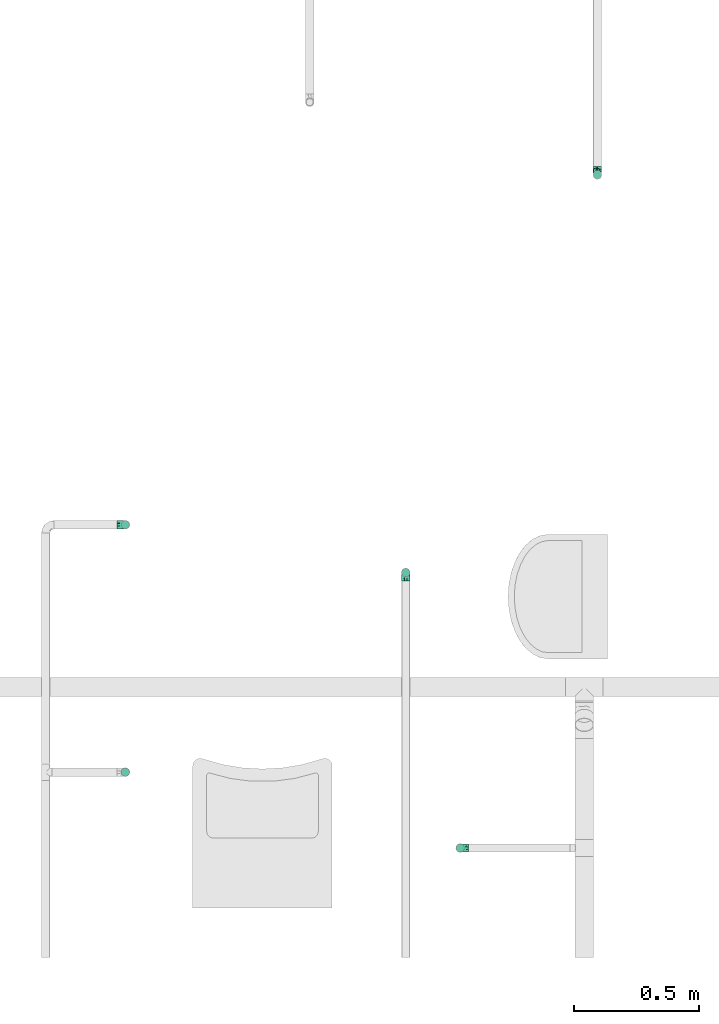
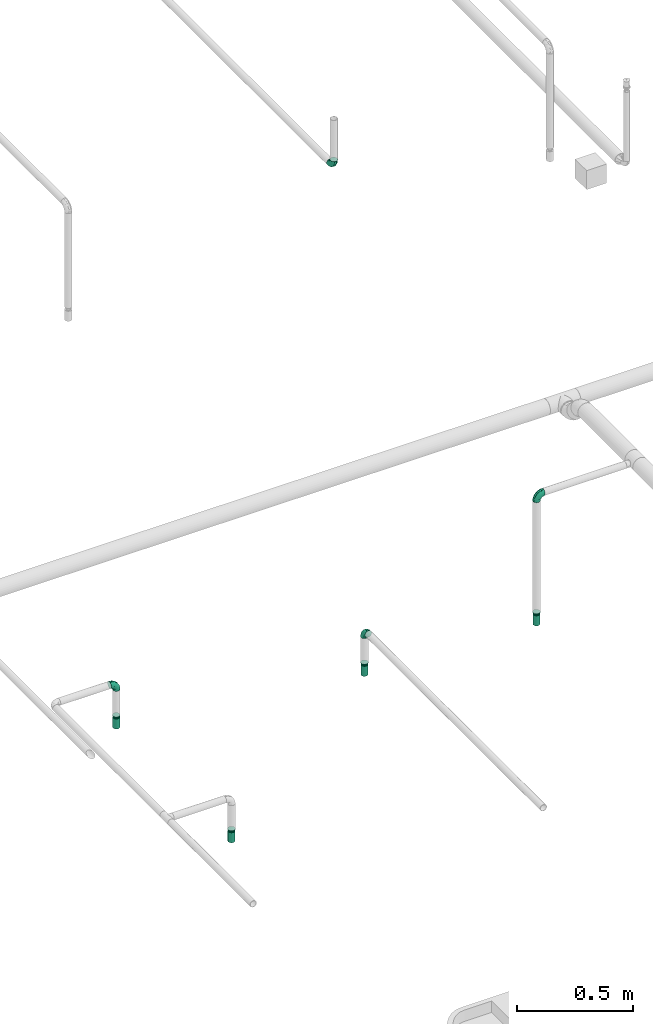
# One storey, part 49 of 95: 8 flow fittings, 4 flow terminals.
"""IFC2X3 building model written with IfcOpenShell, lengths in millimetres."""

from ifc_helpers import new_model, entity, si_unit, converted_unit, derived_unit, direction, frame, origin_with_axes, place, context, subcontext, project, spatial, open_shell, surface_model, source, transform, mapped, type_object, element, save


model = new_model("IFC2X3")

# Units and contexts
model_context = context("Model", 3, precision=0.01, world=frame((0.0, 4.29681676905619e-09, 0.0)), true_north=direction((4.01073788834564e-13, 1.0)))
plan_context = context("Plan", 3, precision=0.01, world=frame((0.0, 4.29681676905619e-09, 0.0)), true_north=direction((4.01073788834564e-13, 1.0)))
body_context = subcontext(model_context, "Body", "Model", "MODEL_VIEW")
ifc_project = project(units=[converted_unit("PLANEANGLEUNIT", "DEGREE", entity("IfcPositiveLengthMeasure", 0.0174532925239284), si_unit("PLANEANGLEUNIT", "RADIAN"), dimensions=[0, 0, 0, 0, 0, 0, 0]), si_unit("AREAUNIT", "SQUARE_METRE"), si_unit("LENGTHUNIT", "METRE", prefix="MILLI"), si_unit("MASSUNIT", "GRAM", prefix="KILO"), si_unit("POWERUNIT", "WATT"), si_unit("PRESSUREUNIT", "PASCAL"), si_unit("FORCEUNIT", "NEWTON", prefix="KILO"), si_unit("ELECTRICVOLTAGEUNIT", "VOLT"), si_unit("ELECTRICCURRENTUNIT", "AMPERE"), si_unit("THERMODYNAMICTEMPERATUREUNIT", "DEGREE_CELSIUS"), si_unit("TIMEUNIT", "SECOND"), si_unit("VOLUMEUNIT", "CUBIC_METRE"), derived_unit("LINEARVELOCITYUNIT", [(si_unit("LENGTHUNIT", "METRE"), 1), (si_unit("TIMEUNIT", "SECOND"), -1)]), derived_unit("VOLUMETRICFLOWRATEUNIT", [(si_unit("VOLUMEUNIT", "CUBIC_METRE"), 1), (si_unit("TIMEUNIT", "SECOND"), -1)]), derived_unit("THERMALTRANSMITTANCEUNIT", [(si_unit("POWERUNIT", "WATT"), 1), (si_unit("THERMODYNAMICTEMPERATUREUNIT", "KELVIN"), -1), (si_unit("AREAUNIT", "SQUARE_METRE"), -1)]), derived_unit("SOUNDPRESSUREUNIT", [(si_unit("PRESSUREUNIT", "PASCAL"), 1)])], contexts=[model_context, plan_context])

# Site, building, storey
site_placement = place(None, frame((0.0, -4.29681676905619e-09, 0.0), z_axis=(0.0, 0.0, 1.0), x_axis=(1.0, 0.0, 0.0)))
site = spatial("IfcSite", under=ifc_project, at=site_placement, CompositionType="ELEMENT")
building_placement = place(site_placement, frame((0.0, 4.29681676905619e-09, 0.0), z_axis=(0.0, 0.0, 1.0), x_axis=(1.0, 0.0, 0.0)))
building = spatial("IfcBuilding", under=site, at=building_placement, Name="mc-building", CompositionType="ELEMENT")
storey_placement = place(building_placement, frame((0.0, 0.0, 210900.0), z_axis=(0.0, 0.0, 1.0), x_axis=(1.0, 0.0, 0.0)))
storey = spatial("IfcBuildingStorey", under=building, at=storey_placement, Name="Nivå F", CompositionType="ELEMENT", Elevation=210900.0)

# Flow fittings
pipe_fitting_type_1 = type_object("IfcPipeFittingType", Name="magi_pipe_fe_reducer_centric_short_NOR", PredefinedType="TRANSITION")
shared_shape_1 = source(origin_with_axes(), body_context, "Body", "SurfaceModel", [
    surface_model("IfcShellBasedSurfaceModel", [(14.4, 5.35, -9.26647), (14.4, 0.0, -10.7), (14.4, 2.76936, -10.33541), (14.4, 10.33541, -2.76936), (14.4, 7.56604, -7.56604), (14.4, -10.33541, -2.76936), (14.4, 9.26647, -5.35), (14.4, 0.0, 10.7), (14.4, -5.35, -9.26647), (14.4, -2.76936, -10.33541), (14.4, -7.56604, -7.56604), (14.4, -9.26647, -5.35), (14.4, 10.7, 0.0), (14.4, 10.33541, 2.76936), (14.4, 9.26647, 5.35), (14.4, 7.56604, 7.56604), (14.4, 2.76936, 10.33541), (14.4, 5.35, 9.26647), (14.4, -10.33541, 2.76936), (14.4, -7.56604, 7.56604), (14.4, -9.26647, 5.35), (14.4, -10.7, 0.0), (14.4, -2.76936, 10.33541), (14.4, -5.35, 9.26647), (12.4, 2.76936, 10.33541), (12.4, -10.33541, -2.76936), (12.4, 0.0, 10.7), (12.4, 5.35, 9.26647), (12.4, 7.56604, 7.56604), (12.4, 9.26647, 5.35), (12.4, 10.33541, 2.76936), (12.4, -10.33541, 2.76936), (12.4, -2.76936, 10.33541), (12.4, -7.56604, 7.56604), (12.4, -5.35, 9.26647), (12.4, -9.26647, 5.35), (12.4, -10.7, 0.0), (12.4, 10.33541, -2.76936), (12.4, 5.35, -9.26647), (12.4, 9.26647, -5.35), (12.4, 7.56604, -7.56604), (12.4, 2.76936, -10.33541), (12.4, -9.26647, -5.35), (12.4, -5.35, -9.26647), (12.4, -7.56604, -7.56604), (12.4, 0.0, -10.7), (12.4, -2.76936, -10.33541), (12.4, 10.7, 0.0), (-2.0, 11.9501, 11.9501), (-2.0, 0.0, 16.9), (-2.0, 4.37404, 16.32415), (-2.0, 8.45, 14.63583), (-2.0, 14.63583, 8.45), (-2.0, 16.32415, 4.37404), (-2.0, -16.32415, 4.37404), (-2.0, -8.45, 14.63583), (-2.0, -14.63583, 8.45), (-2.0, -11.9501, 11.9501), (-2.0, -4.37404, 16.32415), (-2.0, -16.32415, -4.37404), (-2.0, -16.9, 0.0), (-2.0, -8.45, -14.63583), (-2.0, 16.32415, -4.37404), (-2.0, 11.9501, -11.9501), (-2.0, 14.63583, -8.45), (-2.0, 8.45, -14.63583), (-2.0, 4.37404, -16.32415), (-2.0, 0.0, -16.9), (-2.0, -11.9501, -11.9501), (-2.0, -14.63583, -8.45), (-2.0, -4.37404, -16.32415), (-2.0, 16.9, 0.0), (0.0, 4.37404, -16.32415), (0.0, 8.45, -14.63583), (0.0, 11.9501, -11.9501), (0.0, 0.0, -16.9), (0.0, 16.32415, -4.37404), (0.0, 16.32415, 4.37404), (0.0, 14.63583, -8.45), (0.0, -8.45, -14.63583), (0.0, -4.37404, -16.32415), (0.0, -11.9501, -11.9501), (0.0, -16.32415, -4.37404), (0.0, -14.63583, -8.45), (0.0, -16.32415, 4.37404), (0.0, 16.9, 0.0), (0.0, 14.63583, 8.45), (0.0, 11.9501, 11.9501), (0.0, 4.37404, 16.32415), (0.0, 8.45, 14.63583), (0.0, 0.0, 16.9), (0.0, -14.63583, 8.45), (0.0, -16.9, 0.0), (0.0, -8.45, 14.63583), (0.0, -11.9501, 11.9501), (0.0, -4.37404, 16.32415), (12.4, 9.3625, -2.31662), (0.0, 14.42505, -5.97505), (0.0, 15.66253, -2.98753), (12.4, -6.6875, -6.94985), (0.0, -13.18758, -8.96258), (0.0, 2.98753, -15.66253), (12.4, 0.0, -9.26647), (12.4, 6.6875, -6.94985), (0.0, 8.96258, -13.18758), (12.4, -9.3625, -2.31662), (0.0, -15.66253, -2.98753), (0.0, -14.42505, -5.97505), (0.0, 5.97505, -14.42505), (0.0, -2.98753, -15.66253), (0.0, -8.96258, -13.18758), (0.0, 13.18758, -8.96258), (12.4, 8.025, -4.63324), (12.4, -2.675, -9.26647), (12.4, 2.675, -9.26647), (0.0, -5.97505, -14.42505), (12.4, -8.025, -4.63324), (12.4, -9.3625, 2.31662), (0.0, -14.42505, 5.97505), (0.0, -15.66253, 2.98753), (12.4, 6.6875, 6.94985), (0.0, 13.18758, 8.96258), (0.0, -2.98753, 15.66253), (12.4, 0.0, 9.26647), (12.4, -6.6875, 6.94985), (0.0, -8.96258, 13.18758), (12.4, 9.3625, 2.31662), (0.0, 15.66253, 2.98753), (0.0, 14.42505, 5.97505), (0.0, -5.97505, 14.42505), (0.0, 2.98753, 15.66253), (0.0, 8.96258, 13.18758), (0.0, -13.18758, 8.96258), (12.4, -8.025, 4.63324), (12.4, 2.675, 9.26647), (12.4, -2.675, 9.26647), (0.0, 5.97505, 14.42505), (12.4, 8.025, 4.63324)], [open_shell([[[0, 1, 2]], [[3, 0, 4]], [[5, 0, 3]], [[3, 4, 6]], [[7, 5, 3]], [[1, 8, 9]], [[1, 0, 8]], [[10, 5, 11]], [[5, 10, 8]], [[0, 5, 8]], [[3, 12, 13]], [[13, 14, 15]], [[13, 15, 16]], [[7, 3, 16]], [[16, 15, 17]], [[7, 18, 5]], [[18, 19, 20]], [[21, 5, 18]], [[19, 22, 23]], [[22, 19, 18]], [[7, 22, 18]], [[13, 16, 3]], [[24, 25, 26]], [[27, 25, 24]], [[28, 29, 30]], [[28, 25, 27]], [[31, 26, 25]], [[32, 33, 34]], [[33, 32, 31]], [[33, 31, 35]], [[32, 26, 31]], [[31, 25, 36]], [[30, 37, 28]], [[25, 28, 37]], [[38, 37, 39]], [[37, 38, 25]], [[38, 39, 40]], [[41, 25, 38]], [[42, 43, 44]], [[43, 42, 25]], [[43, 45, 46]], [[43, 25, 41]], [[41, 45, 43]], [[37, 30, 47]], [[25, 5, 36]], [[42, 11, 25]], [[8, 44, 43]], [[42, 44, 10]], [[9, 43, 46]], [[25, 11, 5]], [[5, 21, 36]], [[9, 8, 43]], [[10, 44, 8]], [[10, 11, 42]], [[1, 9, 46]], [[46, 45, 1]], [[41, 2, 45]], [[38, 0, 41]], [[6, 40, 39]], [[38, 40, 4]], [[3, 39, 37]], [[38, 4, 0]], [[0, 2, 41]], [[12, 3, 37]], [[6, 39, 3]], [[6, 4, 40]], [[47, 12, 37]], [[45, 2, 1]], [[30, 13, 47]], [[29, 14, 30]], [[17, 28, 27]], [[29, 28, 15]], [[16, 27, 24]], [[30, 14, 13]], [[13, 12, 47]], [[16, 17, 27]], [[15, 28, 17]], [[15, 14, 29]], [[7, 16, 24]], [[24, 26, 7]], [[32, 22, 26]], [[34, 23, 32]], [[20, 33, 35]], [[34, 33, 19]], [[18, 35, 31]], [[34, 19, 23]], [[23, 22, 32]], [[21, 18, 31]], [[20, 35, 18]], [[20, 19, 33]], [[36, 21, 31]], [[26, 22, 7]], [[48, 49, 50]], [[48, 50, 51]], [[48, 52, 53]], [[48, 53, 49]], [[49, 53, 54]], [[55, 56, 57]], [[55, 58, 49]], [[56, 55, 49]], [[49, 54, 56]], [[54, 59, 60]], [[54, 53, 61]], [[53, 62, 63]], [[63, 62, 64]], [[63, 65, 66]], [[61, 53, 63]], [[67, 63, 66]], [[59, 68, 69]], [[68, 59, 61]], [[61, 67, 70]], [[59, 54, 61]], [[63, 67, 61]], [[53, 71, 62]], [[72, 73, 74]], [[75, 72, 74]], [[74, 76, 77]], [[76, 74, 78]], [[74, 77, 79]], [[75, 79, 80]], [[75, 74, 79]], [[81, 82, 83]], [[82, 81, 79]], [[79, 84, 82]], [[77, 76, 85]], [[77, 86, 87]], [[77, 87, 88]], [[88, 84, 79]], [[88, 87, 89]], [[84, 88, 90]], [[90, 91, 84]], [[92, 82, 84]], [[91, 93, 94]], [[91, 90, 93]], [[93, 90, 95]], [[79, 77, 88]], [[59, 82, 60]], [[69, 83, 59]], [[79, 68, 61]], [[69, 68, 81]], [[80, 61, 70]], [[59, 83, 82]], [[82, 92, 60]], [[80, 79, 61]], [[81, 68, 79]], [[81, 83, 69]], [[75, 80, 70]], [[70, 67, 75]], [[66, 72, 67]], [[65, 73, 66]], [[78, 63, 64]], [[65, 63, 74]], [[76, 64, 62]], [[65, 74, 73]], [[73, 72, 66]], [[85, 76, 62]], [[78, 64, 76]], [[78, 74, 63]], [[71, 85, 62]], [[67, 72, 75]], [[53, 77, 71]], [[52, 86, 53]], [[89, 48, 51]], [[52, 48, 87]], [[88, 51, 50]], [[53, 86, 77]], [[77, 85, 71]], [[88, 89, 51]], [[87, 48, 89]], [[87, 86, 52]], [[90, 88, 50]], [[50, 49, 90]], [[58, 95, 49]], [[55, 93, 58]], [[91, 57, 56]], [[55, 57, 94]], [[84, 56, 54]], [[55, 94, 93]], [[93, 95, 58]], [[92, 84, 54]], [[91, 56, 84]], [[91, 94, 57]], [[60, 92, 54]], [[49, 95, 90]], [[27, 34, 47]], [[47, 34, 43]], [[43, 38, 47]], [[43, 34, 36]], [[90, 87, 94]], [[92, 94, 87]], [[87, 74, 92]], [[75, 92, 74]], [[81, 92, 75]], [[74, 87, 85]], [[96, 97, 98]], [[81, 99, 100]], [[101, 102, 75]], [[98, 85, 47]], [[74, 103, 104]], [[104, 103, 38]], [[105, 106, 107]], [[38, 108, 104]], [[102, 109, 75]], [[110, 99, 81]], [[47, 96, 98]], [[103, 111, 112]], [[109, 102, 113]], [[36, 92, 106]], [[102, 101, 114]], [[110, 115, 43]], [[96, 112, 97]], [[107, 116, 105]], [[36, 106, 105]], [[113, 115, 109]], [[43, 115, 113]], [[116, 107, 100]], [[108, 38, 114]], [[111, 103, 74]], [[111, 97, 112]], [[99, 110, 43]], [[116, 100, 99]], [[101, 108, 114]], [[117, 118, 119]], [[87, 120, 121]], [[122, 123, 90]], [[119, 92, 36]], [[94, 124, 125]], [[125, 124, 34]], [[126, 127, 128]], [[34, 129, 125]], [[123, 130, 90]], [[131, 120, 87]], [[36, 117, 119]], [[124, 132, 133]], [[130, 123, 134]], [[47, 85, 127]], [[123, 122, 135]], [[131, 136, 27]], [[117, 133, 118]], [[128, 137, 126]], [[47, 127, 126]], [[134, 136, 130]], [[27, 136, 134]], [[137, 128, 121]], [[129, 34, 135]], [[132, 124, 94]], [[132, 118, 133]], [[120, 131, 27]], [[137, 121, 120]], [[122, 129, 135]]])]),
])
for number, where, z_axis, x_axis, name in (
    (1, (534102.76021, 441213.6625, 3769.25200000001), (0.0, -1.0, 0.0), (0.0, 0.0, -1.0), "magi_pipe_fe_reducer_centric_short_NOR"),
    (2, (532758.65743, 441518.15849, 2912.39999999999), (0.0, -1.0, 0.0), (0.0, 0.0, -1.0), "magi_pipe_fe_reducer_centric_short_NOR"),
    (3, (532758.43666, 442511.46652, 2909.35200000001), (0.0, -1.0, 0.0), (0.0, 0.0, -1.0), "magi_pipe_fe_reducer_centric_short_NOR"),
    (4, (533884.1403, 442319.41048, 2909.35200000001), (0.0, -1.0, 0.0), (0.0, 0.0, -1.0), "magi_pipe_fe_reducer_centric_short_NOR"),
):
    element("IfcFlowFitting", number, at=place(storey_placement, frame(where, z_axis=z_axis, x_axis=x_axis)), inside=storey, type_object=pipe_fitting_type_1, Name=name, context=body_context, shape_type="MappedRepresentation", body=[
        mapped(shared_shape_1, transform((0.0, 0.0, 0.0), scale=1.0)),
    ])
pipe_fitting_type_2 = type_object("IfcPipeFittingType", Name="magi_pipe_fe_elbow_short_001", PredefinedType="BEND")
shared_shape_2 = source(origin_with_axes(), body_context, "Body", "SurfaceModel", [
    surface_model("IfcShellBasedSurfaceModel", [(-33.8, 8.45, -14.63583), (-33.8, 4.37404, -16.32415), (-33.8, 11.9501, -11.9501), (-33.8, -11.9501, -11.9501), (-33.8, -14.63583, -8.45), (-33.8, -8.45, -14.63583), (-33.8, 0.0, -16.9), (-33.8, -4.37404, -16.32415), (-33.8, -4.37404, 16.32415), (-33.8, 0.0, 16.9), (-33.8, -8.45, 14.63583), (-33.8, 16.32415, -4.37404), (-33.8, 14.63583, -8.45), (-33.8, -16.32415, -4.37404), (-33.8, -16.9, 0.0), (-33.8, -16.32415, 4.37404), (-33.8, 11.9501, 11.9501), (-33.8, 14.63583, 8.45), (-33.8, 16.32415, 4.37404), (-33.8, 4.37404, 16.32415), (-33.8, 8.45, 14.63583), (-33.8, -14.63583, 8.45), (-33.8, -11.9501, 11.9501), (-33.8, 16.9, 0.0), (-11.9501, 33.8, -11.9501), (0.0, 33.8, -16.9), (-4.37404, 33.8, -16.32415), (-8.45, 33.8, -14.63583), (-14.63583, 33.8, -8.45), (-16.32415, 33.8, -4.37404), (14.63583, 33.8, -8.45), (8.45, 33.8, 14.63583), (16.32415, 33.8, -4.37404), (8.45, 33.8, -14.63583), (11.9501, 33.8, -11.9501), (4.37404, 33.8, -16.32415), (16.32415, 33.8, 4.37404), (16.9, 33.8, 0.0), (-11.9501, 33.8, 11.9501), (-16.32415, 33.8, 4.37404), (-14.63583, 33.8, 8.45), (-8.45, 33.8, 14.63583), (-4.37404, 33.8, 16.32415), (11.9501, 33.8, 11.9501), (14.63583, 33.8, 8.45), (0.0, 33.8, 16.9), (4.37404, 33.8, 16.32415), (-16.9, 33.8, 0.0), (-24.79389, -13.12945, 9.48721), (-22.19287, -9.75018, 12.59315), (-24.09897, -14.97035, 0.0), (-14.93934, -10.76256, 8.5297), (-22.46095, -14.75051, 5.27077), (14.75051, 22.46094, 5.27077), (11.9251, 13.23888, 4.33236), (13.04069, 14.39795, 0.0), (7.71387, 13.68847, 11.55891), (9.75018, 22.19287, 12.59315), (4.10169, 13.0571, 14.04018), (-24.84007, -6.39063, 15.2048), (-25.81779, -2.23879, 16.61097), (-23.66549, 2.59054, 16.87119), (-26.50418, 14.06512, 11.08152), (-24.21253, 17.66365, 7.72657), (-29.58514, 15.86957, 7.00283), (-6.17382, -7.5455, 0.0), (-13.23888, -11.9251, 4.33236), (-14.39795, -13.04069, 0.0), (-17.81434, 18.87373, 11.97104), (-6.30846, 29.15138, 15.82987), (-2.31622, 25.28002, 16.85849), (-29.23923, 10.23435, 13.77053), (-1.45439, -2.85688, 7.61475), (-0.28326, 0.34872, 10.09509), (-5.74484, -4.04709, 10.4122), (-4.41137, 11.31918, 16.59407), (-8.39727, 3.10034, 15.7812), (-1.72649, 9.1306, 15.53089), (-17.39909, 24.75344, 7.64977), (-26.19233, 20.0512, 0.0), (-28.14518, 17.29657, 4.25857), (-26.05147, 6.6281, 15.96447), (-5.87354, 16.61944, 16.86968), (-12.51807, 12.51807, 16.48937), (-10.06312, 7.38516, 16.81295), (-3.01882, 3.01882, 13.81718), (-13.0571, -4.10169, 14.04018), (-16.82553, -0.15166, 16.38038), (10.76256, 14.93934, 8.5297), (13.12945, 24.79389, 9.48721), (6.39063, 24.84007, 15.2048), (2.23879, 25.81779, 16.61097), (-13.68847, -7.71387, 11.55891), (14.97035, 24.09897, 0.0), (-7.30894, 22.89991, 16.09489), (-10.67958, 26.17414, 14.008), (-12.78295, 18.26924, 15.06066), (-13.88562, 22.45231, 12.93244), (-18.04944, 15.16501, 14.04434), (-23.11658, 20.08178, 4.02986), (-21.84989, 21.84989, 0.0), (-18.55817, 25.48277, 3.93065), (-13.95142, 26.94732, 11.03289), (-18.57098, 7.23906, 16.59756), (-16.58335, 4.14122, 16.89279), (-17.96666, 11.46709, 15.63151), (-9.84453, 17.54304, 16.18938), (0.15166, 16.82553, 16.38038), (-23.27207, 11.47201, 14.23154), (3.84842, 5.86994, 10.70473), (-8.0212, -7.54413, 7.93275), (1.00345, -2.19508, 4.57414), (5.13203, 3.01004, 5.90201), (5.24161, 1.7543, 2.53265), (8.70457, 7.04947, 3.99182), (-20.0512, 26.19233, 0.0), (8.4852, 8.76699, 7.09296), (-4.55488, -6.72064, 4.90681), (2.05031, -2.05031, 0.0), (7.5455, 6.17382, 0.0), (-26.75399, 2.1369, -16.845), (-14.61995, 24.73803, -11.27736), (-28.45274, -13.45335, -9.81895), (-26.00469, 6.63555, -15.96645), (-23.06726, 20.04573, -4.26202), (-13.80647, -4.26506, -14.17873), (-14.67501, -0.21081, -16.07388), (-6.7902, -0.2828, -13.8478), (-24.53586, 11.08096, -14.13417), (-26.72048, 14.00837, -11.05776), (10.0967, 24.44989, -12.75976), (5.83237, 21.40218, -15.03047), (6.66249, 28.54238, -15.38093), (-20.38182, 15.48705, -12.74596), (12.53268, 21.23441, -9.15363), (12.54494, 15.67504, -5.54878), (9.7522, 12.89279, -8.66343), (-15.65186, 19.64213, -13.01327), (-12.03528, 20.66498, -14.67665), (-15.61907, 15.61906, -14.83879), (-25.56551, -15.26206, 0.0), (-24.65452, -15.12934, -5.50955), (13.45335, 28.45274, -9.81895), (15.12934, 24.65452, -5.50955), (-7.35442, -8.31014, -5.65563), (-15.67504, -12.54494, -5.54878), (-24.44989, -10.0967, -12.75976), (0.16522, 0.41303, -9.71728), (-5.70658, -5.33066, -8.89288), (-5.13869, -2.37198, -11.53565), (-21.23441, -12.53268, -9.15363), (0.71146, 7.93863, -14.09382), (0.21081, 14.67501, -16.07388), (3.49291, 14.42772, -14.76381), (-24.89911, -2.13088, -16.591), (-28.54238, -6.66249, -15.38093), (-18.44386, -7.71663, -13.26957), (2.13088, 24.89911, -16.591), (-28.64342, 17.44413, -2.89318), (1.70017, -1.28722, -5.09504), (-16.57067, 26.81947, -7.36596), (-17.69055, 27.4263, -3.76405), (-12.89279, -9.7522, -8.66343), (-5.96611, 5.96611, -15.95814), (-20.53709, 20.09345, -8.28985), (-2.1369, 26.75399, -16.845), (-6.89872, 24.58781, -16.02578), (-10.60739, 26.53157, -13.98044), (-21.40218, -5.83237, -15.03047), (2.93192, 5.89627, -11.55917), (6.89393, 12.61842, -11.82233), (5.58056, 5.95325, -8.79455), (-3.99512, 18.61798, -16.89635), (8.31014, 7.35442, -5.65563), (-9.1383, 9.86148, -16.89041), (-9.99983, 16.02119, -16.39699), (-16.68576, 9.78031, -16.34199), (-27.01915, 16.61158, -7.12979), (15.26206, 25.56551, 0.0), (-18.61798, 3.99512, -16.89635), (-19.37495, 27.82495, 0.0), (-12.61842, -6.89393, -11.82233), (-18.84705, 19.14018, -10.96545)], [open_shell([[[0, 1, 2]], [[3, 4, 5]], [[6, 7, 5]], [[8, 9, 10]], [[1, 6, 2]], [[11, 12, 2]], [[4, 2, 6]], [[2, 13, 10]], [[5, 4, 6]], [[2, 4, 13]], [[14, 15, 13]], [[11, 2, 16]], [[11, 17, 18]], [[11, 16, 17]], [[19, 20, 16]], [[16, 2, 10]], [[19, 16, 10]], [[21, 22, 15]], [[22, 13, 15]], [[22, 10, 13]], [[10, 9, 19]], [[11, 18, 23]], [[24, 25, 26]], [[24, 26, 27]], [[24, 28, 29]], [[25, 24, 30]], [[31, 32, 24]], [[33, 30, 34]], [[33, 35, 25]], [[25, 30, 33]], [[32, 30, 24]], [[32, 36, 37]], [[38, 24, 29]], [[39, 40, 29]], [[40, 38, 29]], [[38, 41, 42]], [[38, 31, 24]], [[31, 38, 42]], [[36, 43, 44]], [[36, 32, 43]], [[31, 45, 46]], [[32, 31, 43]], [[42, 45, 31]], [[39, 29, 47]], [[22, 48, 49]], [[15, 14, 50]], [[51, 48, 52]], [[53, 54, 55]], [[48, 22, 21]], [[15, 52, 21]], [[56, 57, 58]], [[49, 10, 22]], [[49, 59, 10]], [[9, 60, 61]], [[62, 63, 64]], [[65, 66, 67]], [[57, 43, 31]], [[62, 68, 63]], [[42, 69, 70]], [[20, 71, 16]], [[8, 60, 9]], [[72, 73, 74]], [[75, 76, 77]], [[16, 62, 17]], [[40, 39, 78]], [[79, 23, 80]], [[64, 18, 17]], [[9, 61, 19]], [[19, 81, 20]], [[82, 83, 84]], [[74, 85, 86]], [[59, 86, 87]], [[88, 89, 57]], [[90, 31, 46]], [[44, 53, 36]], [[46, 45, 91]], [[54, 53, 88]], [[44, 89, 53]], [[92, 86, 49]], [[89, 44, 43]], [[10, 59, 8]], [[53, 55, 93]], [[93, 36, 53]], [[66, 52, 67]], [[94, 82, 70]], [[95, 96, 94]], [[97, 98, 96]], [[79, 99, 100]], [[41, 38, 95]], [[101, 100, 99]], [[68, 78, 63]], [[42, 41, 69]], [[23, 18, 80]], [[95, 94, 69]], [[78, 101, 99]], [[38, 102, 95]], [[70, 45, 42]], [[97, 95, 102]], [[15, 50, 52]], [[90, 57, 31]], [[57, 90, 58]], [[81, 19, 61]], [[103, 104, 84]], [[105, 81, 103]], [[38, 40, 102]], [[106, 96, 83]], [[94, 106, 82]], [[91, 70, 107]], [[71, 62, 16]], [[62, 108, 98]], [[86, 59, 49]], [[67, 52, 50]], [[60, 59, 87]], [[92, 49, 51]], [[86, 85, 76]], [[91, 90, 46]], [[37, 36, 93]], [[107, 77, 58]], [[107, 58, 90]], [[58, 85, 109]], [[110, 74, 92]], [[72, 74, 110]], [[66, 51, 52]], [[72, 111, 112]], [[113, 114, 112]], [[56, 88, 57]], [[52, 48, 21]], [[49, 48, 51]], [[57, 89, 43]], [[53, 89, 88]], [[103, 81, 61]], [[71, 81, 108]], [[18, 64, 80]], [[63, 78, 99]], [[47, 115, 101]], [[101, 115, 100]], [[40, 78, 102]], [[68, 102, 78]], [[97, 96, 95]], [[105, 98, 108]], [[103, 84, 83]], [[107, 70, 82]], [[76, 84, 87]], [[82, 84, 75]], [[70, 91, 45]], [[90, 91, 107]], [[59, 60, 8]], [[61, 60, 87]], [[73, 85, 74]], [[109, 112, 116]], [[103, 61, 104]], [[105, 103, 83]], [[96, 105, 83]], [[81, 105, 108]], [[96, 98, 105]], [[62, 98, 68]], [[61, 87, 104]], [[87, 84, 104]], [[86, 76, 87]], [[77, 76, 85]], [[58, 77, 85]], [[75, 77, 107]], [[82, 75, 107]], [[76, 75, 84]], [[81, 71, 20]], [[62, 71, 108]], [[95, 69, 41]], [[70, 69, 94]], [[62, 64, 17]], [[80, 63, 99]], [[63, 80, 64]], [[80, 99, 79]], [[66, 65, 117]], [[110, 66, 117]], [[112, 114, 116]], [[118, 117, 65]], [[110, 92, 51]], [[112, 111, 113]], [[119, 55, 54]], [[74, 86, 92]], [[58, 109, 56]], [[116, 56, 109]], [[66, 110, 51]], [[72, 110, 117]], [[111, 72, 117]], [[73, 112, 109]], [[117, 118, 111]], [[113, 111, 118]], [[118, 119, 113]], [[114, 119, 54]], [[119, 114, 113]], [[116, 54, 88]], [[54, 116, 114]], [[116, 88, 56]], [[112, 73, 72]], [[85, 73, 109]], [[78, 39, 101]], [[47, 101, 39]], [[102, 68, 97]], [[97, 68, 98]], [[82, 106, 83]], [[94, 96, 106]], [[1, 120, 6]], [[28, 24, 121]], [[3, 122, 4]], [[0, 123, 1]], [[100, 124, 79]], [[125, 126, 127]], [[128, 2, 129]], [[130, 131, 132]], [[128, 129, 133]], [[134, 135, 136]], [[137, 138, 139]], [[128, 0, 2]], [[67, 140, 141]], [[134, 142, 143]], [[141, 13, 4]], [[144, 65, 145]], [[146, 3, 5]], [[147, 148, 149]], [[145, 141, 150]], [[151, 152, 153]], [[154, 7, 6]], [[5, 155, 146]], [[150, 146, 156]], [[155, 5, 7]], [[143, 135, 134]], [[35, 157, 25]], [[23, 79, 158]], [[148, 159, 144]], [[160, 161, 29]], [[145, 162, 144]], [[163, 152, 151]], [[29, 28, 160]], [[121, 164, 160]], [[33, 34, 130]], [[25, 165, 26]], [[26, 165, 166]], [[142, 34, 30]], [[24, 27, 167]], [[124, 161, 164]], [[157, 35, 132]], [[155, 154, 168]], [[123, 0, 128]], [[169, 170, 171]], [[172, 157, 152]], [[26, 166, 27]], [[132, 35, 33]], [[142, 130, 34]], [[168, 154, 126]], [[136, 135, 173]], [[133, 137, 139]], [[2, 12, 129]], [[170, 131, 130]], [[30, 32, 143]], [[172, 174, 175]], [[176, 123, 128]], [[158, 177, 11]], [[135, 55, 119]], [[167, 27, 166]], [[175, 166, 172]], [[137, 167, 138]], [[122, 141, 4]], [[140, 14, 13]], [[32, 37, 178]], [[170, 130, 134]], [[152, 157, 131]], [[165, 157, 172]], [[153, 170, 151]], [[152, 163, 174]], [[168, 125, 156]], [[122, 146, 150]], [[120, 154, 6]], [[179, 174, 126]], [[179, 126, 154]], [[126, 163, 127]], [[162, 145, 150]], [[140, 13, 141]], [[32, 178, 143]], [[55, 143, 178]], [[177, 129, 12]], [[128, 133, 139]], [[176, 128, 139]], [[120, 123, 179]], [[121, 160, 28]], [[161, 100, 180]], [[166, 175, 138]], [[121, 24, 167]], [[161, 47, 29]], [[79, 124, 158]], [[124, 164, 177]], [[161, 124, 100]], [[136, 171, 170]], [[127, 163, 151]], [[147, 171, 159]], [[148, 144, 162]], [[127, 151, 169]], [[127, 181, 125]], [[129, 177, 164]], [[12, 11, 177]], [[159, 65, 144]], [[67, 141, 145]], [[143, 55, 135]], [[135, 119, 173]], [[123, 120, 1]], [[154, 120, 179]], [[157, 165, 25]], [[166, 165, 172]], [[172, 152, 174]], [[176, 139, 175]], [[126, 174, 163]], [[176, 174, 179]], [[174, 176, 175]], [[123, 176, 179]], [[150, 181, 162]], [[127, 149, 181]], [[181, 148, 162]], [[159, 148, 147]], [[171, 136, 173]], [[170, 134, 136]], [[159, 171, 173]], [[171, 147, 169]], [[169, 147, 149]], [[151, 170, 169]], [[164, 182, 129]], [[182, 121, 137]], [[181, 149, 148]], [[169, 149, 127]], [[182, 137, 133]], [[167, 137, 121]], [[166, 138, 167]], [[175, 139, 138]], [[129, 182, 133]], [[121, 182, 164]], [[161, 160, 164]], [[47, 161, 180]], [[177, 158, 124]], [[23, 158, 11]], [[130, 132, 33]], [[157, 132, 131]], [[143, 142, 30]], [[130, 142, 134]], [[154, 155, 7]], [[146, 155, 168]], [[146, 122, 3]], [[141, 122, 150]], [[152, 131, 153]], [[159, 119, 118]], [[67, 145, 65]], [[170, 153, 131]], [[119, 159, 173]], [[159, 118, 65]], [[156, 125, 181]], [[126, 125, 168]], [[150, 156, 181]], [[168, 156, 146]]])]),
])
for number, where, z_axis, x_axis, name in (
    (5, (534102.76021, 441213.6625, 4390.0), (0.0, 1.0, 0.0), (0.0, 0.0, 1.0), "magi_pipe_fe_elbow_short_001"),
    (6, (532758.43666, 442511.46652, 3080.14999999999), (0.0, 1.0, 0.0), (1.0, 0.0, 0.0), "magi_pipe_fe_elbow_short_001"),
    (7, (533884.1403, 442319.41048, 3080.14999999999), (-1.0, 0.0, 0.0), (0.0, 1.0, 0.0), "magi_pipe_fe_elbow_short_001"),
    (8, (534653.43639, 443915.88295, 4287.98254), (1.0, 0.0, 0.0), (0.0, 0.0, -1.0), "magi_pipe_fe_elbow_short_001"),
):
    element("IfcFlowFitting", number, at=place(storey_placement, frame(where, z_axis=z_axis, x_axis=x_axis)), inside=storey, type_object=pipe_fitting_type_2, Name=name, context=body_context, shape_type="MappedRepresentation", body=[
        mapped(shared_shape_2, transform((0.0, 0.0, 0.0), scale=1.0)),
    ])

# Flow terminals
fire_suppression_terminal_type = type_object("IfcFireSuppressionTerminalType", Name="SP-15-K80-68DGR-STD-HIMLING", PredefinedType="NOTDEFINED")
shared_shape_3 = source(origin_with_axes(), body_context, "Body", "SurfaceModel", [
    surface_model("IfcShellBasedSurfaceModel", [(15.45481, -4.1411, 53.0), (13.85641, -8.0, 53.0), (15.45481, -4.1411, 0.0), (16.0, 0.0, 0.0), (16.0, 0.0, 53.0), (15.45481, 4.1411, 0.0), (13.85641, 8.0, 53.0), (15.45481, 4.1411, 53.0), (11.31371, 11.31371, 53.0), (8.0, 13.85641, 53.0), (4.1411, 15.45481, 53.0), (-8.0, 13.85641, 53.0), (-4.1411, 15.45481, 53.0), (0.0, 16.0, 53.0), (-11.31371, 11.31371, 53.0), (-13.85641, 8.0, 53.0), (-15.45481, 4.1411, 53.0), (11.31371, -11.31371, 53.0), (-16.0, 0.0, 53.0), (0.0, -16.0, 53.0), (4.1411, -15.45481, 53.0), (8.0, -13.85641, 53.0), (-13.85641, -8.0, 53.0), (-11.31371, -11.31371, 53.0), (-15.45481, -4.1411, 53.0), (-8.0, -13.85641, 53.0), (-4.1411, -15.45481, 53.0), (8.0, -13.85641, 0.0), (4.1411, -15.45481, 0.0), (0.0, -16.0, 0.0), (-4.1411, -15.45481, 0.0), (13.85641, -8.0, 0.0), (11.31371, -11.31371, 0.0), (-16.0, 0.0, 0.0), (-8.0, -13.85641, 0.0), (-11.31371, -11.31371, 0.0), (-13.85641, -8.0, 0.0), (-15.45481, -4.1411, 0.0), (4.1411, 15.45481, 0.0), (13.85641, 8.0, 0.0), (8.0, 13.85641, 0.0), (11.31371, 11.31371, 0.0), (-15.45481, 4.1411, 0.0), (-11.31371, 11.31371, 0.0), (-8.0, 13.85641, 0.0), (-13.85641, 8.0, 0.0), (-4.1411, 15.45481, 0.0), (0.0, 16.0, 0.0)], [open_shell([[[0, 1, 2]], [[3, 4, 0]], [[5, 6, 7]], [[7, 4, 3]], [[8, 9, 10]], [[8, 10, 11]], [[8, 4, 7]], [[6, 8, 7]], [[4, 8, 11]], [[12, 11, 13]], [[11, 10, 13]], [[14, 15, 11]], [[16, 11, 15]], [[11, 16, 4]], [[16, 0, 4]], [[17, 1, 0]], [[18, 17, 16]], [[19, 20, 21]], [[18, 21, 17]], [[21, 18, 19]], [[22, 23, 24]], [[18, 24, 23]], [[25, 26, 23]], [[18, 23, 26]], [[26, 19, 18]], [[0, 16, 17]], [[27, 28, 29]], [[27, 29, 30]], [[2, 31, 32]], [[32, 27, 33]], [[2, 32, 33]], [[34, 35, 30]], [[36, 30, 35]], [[36, 37, 30]], [[37, 27, 30]], [[37, 33, 27]], [[33, 5, 2]], [[38, 5, 33]], [[39, 5, 38]], [[38, 40, 41]], [[39, 38, 41]], [[33, 42, 38]], [[43, 44, 45]], [[42, 45, 44]], [[46, 47, 44]], [[38, 42, 44]], [[44, 47, 38]], [[5, 3, 2]], [[45, 42, 16]], [[45, 15, 43]], [[46, 44, 11]], [[14, 44, 43]], [[47, 46, 12]], [[33, 18, 42]], [[18, 16, 42]], [[16, 15, 45]], [[15, 14, 43]], [[44, 14, 11]], [[11, 12, 46]], [[12, 13, 47]], [[40, 38, 10]], [[40, 9, 41]], [[5, 39, 6]], [[8, 39, 41]], [[3, 5, 7]], [[13, 10, 38]], [[10, 9, 40]], [[9, 8, 41]], [[8, 6, 39]], [[47, 13, 38]], [[2, 3, 0]], [[31, 2, 1]], [[28, 27, 21]], [[29, 28, 20]], [[1, 17, 32]], [[17, 27, 32]], [[21, 27, 17]], [[21, 20, 28]], [[31, 1, 32]], [[20, 19, 29]], [[34, 30, 26]], [[34, 25, 35]], [[37, 36, 22]], [[23, 36, 35]], [[33, 37, 24]], [[19, 26, 30]], [[26, 25, 34]], [[25, 23, 35]], [[23, 22, 36]], [[37, 22, 24]], [[24, 18, 33]], [[29, 19, 30]]])]),
])
for number, where, z_axis, x_axis in (
    (9, (533884.1403, 442319.41048, 2900.0), (0.0, 0.0, -1.0), (1.0, 0.0, 0.0)),
    (10, (532758.43666, 442511.46652, 2900.0), (0.0, 0.0, -1.0), (1.0, 0.0, 0.0)),
    (11, (532758.65743, 441518.15849, 2903.04800000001), (0.0, 0.0, -1.0), (1.0, 0.0, 0.0)),
    (12, (534102.76021, 441213.6625, 3759.89999999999), (0.0, 0.0, -1.0), (1.0, 0.0, 0.0)),
):
    element("IfcFlowTerminal", number, at=place(storey_placement, frame(where, z_axis=z_axis, x_axis=x_axis)), inside=storey, type_object=fire_suppression_terminal_type, Name="SP-15-K80-68DGR-STD-HIMLING", context=body_context, shape_type="MappedRepresentation", body=[
        mapped(shared_shape_3, transform((0.0, 0.0, 0.0), scale=1.0)),
    ])

save(model, "model.ifc")
